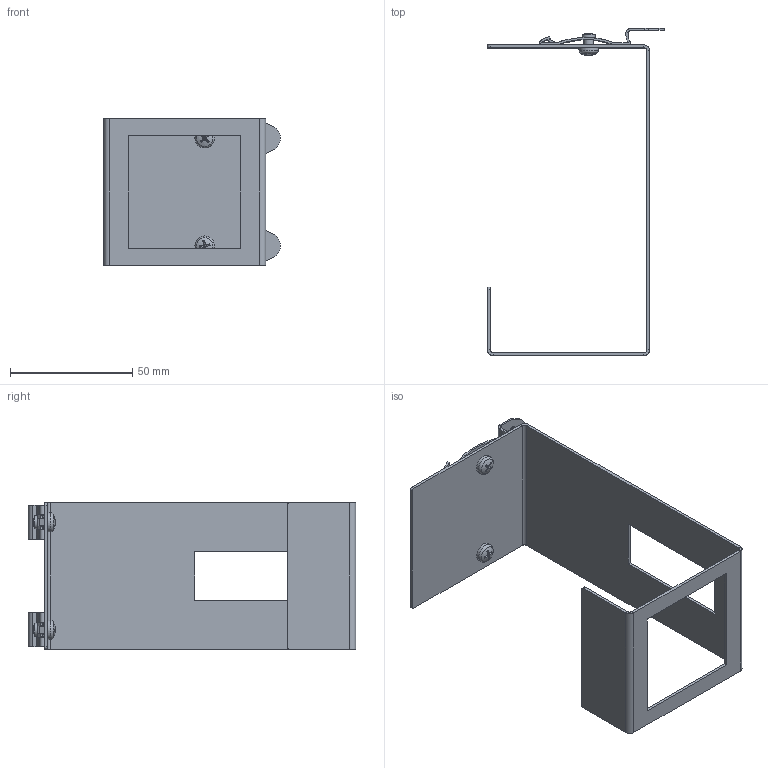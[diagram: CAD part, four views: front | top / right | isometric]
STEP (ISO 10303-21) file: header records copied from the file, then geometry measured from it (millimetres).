
FILE_DESCRIPTION(/* description */ (''),/* implementation_level */ '2;1');
FILE_NAME(/* name */ '1300.50.003.stp',/* time_stamp */ '2026-05-08T16:24:03+02:00',/* author */ ('ut3'),/* organization */ (''),/* preprocessor_version */ 'ST-DEVELOPER v20.1',/* originating_system */ 'Autodesk Inventor 2026',/* authorisation */ '');
FILE_SCHEMA (('AUTOMOTIVE_DESIGN { 1 0 10303 214 3 1 1 }'));
Length unit declared in the file: millimetre
Products named in the file (4): 1300.50.003; 1300.20.219-MV2; ISO 7045 - M4 x 6 - 4.8 - H; dn-clip-fm4
Assembly tree (5 placements, depth 2):
  1300.50.003
    1300.20.219-MV2
    ISO 7045 - M4 x 6 - 4.8 - H  x2
    dn-clip-fm4  x2
Bounding box: 72.4 x 134.05 x 60 mm (x, y, z)
Volume: 18204.8 mm3; surface area: 32741 mm2
Topology: 5 solids, 5 shells, 230 faces, 622 edges, 408 vertices
Faces by surface type: plane 118, cylinder 70, cone 24, torus 12, bspline 4, sphere 2
Full cylindrical faces by diameter (mm): 3.621 x2, 4 x2, 4.35 x2, 4.5 x2, 5.419 x2
Entity records: 5390 total; most frequent: CARTESIAN_POINT 1767, DIRECTION 728, ORIENTED_EDGE 722, EDGE_CURVE 361, AXIS2_PLACEMENT_3D 261, VERTEX_POINT 234, LINE 206, VECTOR 206
